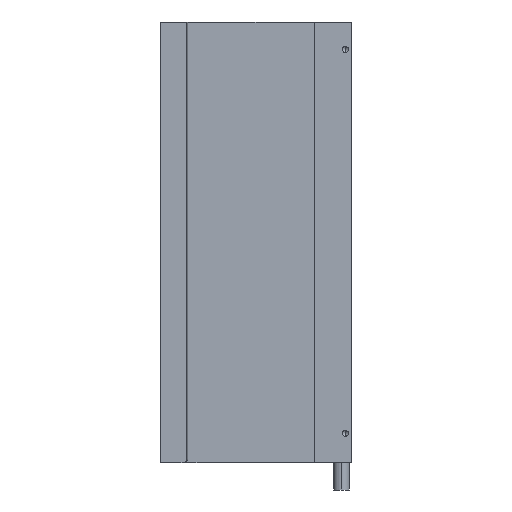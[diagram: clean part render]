
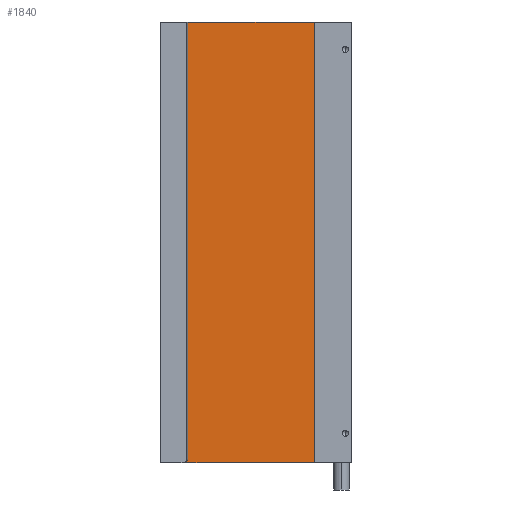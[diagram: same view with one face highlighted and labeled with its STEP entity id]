
A CAD part, left-side view. The second image highlights one B-rep face of the part: STEP entity #1840.
In plain terms, the highlighted planar face has unit normal (-1, 0, 0).
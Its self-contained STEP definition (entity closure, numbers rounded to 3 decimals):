
#2 = VERTEX_POINT ( 'NONE', #1047 ) ;
#229 = CARTESIAN_POINT ( 'NONE',  ( -6.6, 89.8, -118.5 ) ) ;
#246 = ORIENTED_EDGE ( 'NONE', *, *, #1220, .T. ) ;
#260 = CARTESIAN_POINT ( 'NONE',  ( -6.6, 20.5, 120.5 ) ) ;
#309 = CARTESIAN_POINT ( 'NONE',  ( -6.6, 91.803, -120.5 ) ) ;
#348 = PLANE ( 'NONE',  #1377 ) ;
#374 = CARTESIAN_POINT ( 'NONE',  ( -6.6, 89.8, 120.5 ) ) ;
#377 = EDGE_LOOP ( 'NONE', ( #246, #581, #2708, #2848, #880 ) ) ;
#581 = ORIENTED_EDGE ( 'NONE', *, *, #632, .F. ) ;
#617 = VERTEX_POINT ( 'NONE', #309 ) ;
#631 = LINE ( 'NONE', #1208, #1326 ) ;
#632 = EDGE_CURVE ( 'NONE', #1034, #3670, #1883, .T. ) ;
#816 = EDGE_CURVE ( 'NONE', #2702, #2, #3251, .T. ) ;
#828 =( BOUNDED_CURVE ( )  B_SPLINE_CURVE ( 3, ( #229, #857, #2186, #4062 ),
 .UNSPECIFIED., .F., .F. ) 
 B_SPLINE_CURVE_WITH_KNOTS ( ( 4, 4 ),
 ( 3.142, 4.712 ),
 .UNSPECIFIED. ) 
 CURVE ( )  GEOMETRIC_REPRESENTATION_ITEM ( )  RATIONAL_B_SPLINE_CURVE ( ( 1., 0.805, 0.805, 1. ) ) 
 REPRESENTATION_ITEM ( '' )  );
#857 = CARTESIAN_POINT ( 'NONE',  ( -6.6, 89.8, -119.672 ) ) ;
#880 = ORIENTED_EDGE ( 'NONE', *, *, #2990, .T. ) ;
#924 = CARTESIAN_POINT ( 'NONE',  ( -6.6, 20.5, -120.5 ) ) ;
#1000 = DIRECTION ( 'NONE',  ( 0., 0., -1. ) ) ;
#1034 = VERTEX_POINT ( 'NONE', #3645 ) ;
#1047 = CARTESIAN_POINT ( 'NONE',  ( -6.6, 89.8, -118.5 ) ) ;
#1206 = DIRECTION ( 'NONE',  ( 0., -1., 0. ) ) ;
#1208 = CARTESIAN_POINT ( 'NONE',  ( -6.6, 20.5, -120.5 ) ) ;
#1220 = EDGE_CURVE ( 'NONE', #617, #3670, #631, .T. ) ;
#1278 = DIRECTION ( 'NONE',  ( 0., 1., 0. ) ) ;
#1326 = VECTOR ( 'NONE', #3421, 1000. ) ;
#1377 = AXIS2_PLACEMENT_3D ( 'NONE', #2261, #3188, #1278 ) ;
#1575 = VECTOR ( 'NONE', #1000, 1000. ) ;
#1641 = FACE_OUTER_BOUND ( 'NONE', #377, .T. ) ;
#1817 = LINE ( 'NONE', #3719, #3287 ) ;
#1840 = ADVANCED_FACE ( 'NONE', ( #1641 ), #348, .F. ) ;
#1883 = LINE ( 'NONE', #260, #2242 ) ;
#1999 = CARTESIAN_POINT ( 'NONE',  ( -6.6, 89.8, 120.5 ) ) ;
#2186 = CARTESIAN_POINT ( 'NONE',  ( -6.6, 90.63, -120.5 ) ) ;
#2242 = VECTOR ( 'NONE', #4109, 1000. ) ;
#2261 = CARTESIAN_POINT ( 'NONE',  ( -6.6, 20.5, 120.5 ) ) ;
#2702 = VERTEX_POINT ( 'NONE', #374 ) ;
#2708 = ORIENTED_EDGE ( 'NONE', *, *, #3012, .F. ) ;
#2848 = ORIENTED_EDGE ( 'NONE', *, *, #816, .T. ) ;
#2990 = EDGE_CURVE ( 'NONE', #2, #617, #828, .T. ) ;
#3012 = EDGE_CURVE ( 'NONE', #2702, #1034, #1817, .T. ) ;
#3188 = DIRECTION ( 'NONE',  ( 1., 0., 0. ) ) ;
#3251 = LINE ( 'NONE', #1999, #1575 ) ;
#3287 = VECTOR ( 'NONE', #1206, 1000. ) ;
#3421 = DIRECTION ( 'NONE',  ( 0., -1., 0. ) ) ;
#3645 = CARTESIAN_POINT ( 'NONE',  ( -6.6, 20.5, 120.5 ) ) ;
#3670 = VERTEX_POINT ( 'NONE', #924 ) ;
#3719 = CARTESIAN_POINT ( 'NONE',  ( -6.6, 20.5, 120.5 ) ) ;
#4062 = CARTESIAN_POINT ( 'NONE',  ( -6.6, 91.803, -120.5 ) ) ;
#4109 = DIRECTION ( 'NONE',  ( 0., 0., -1. ) ) ;
